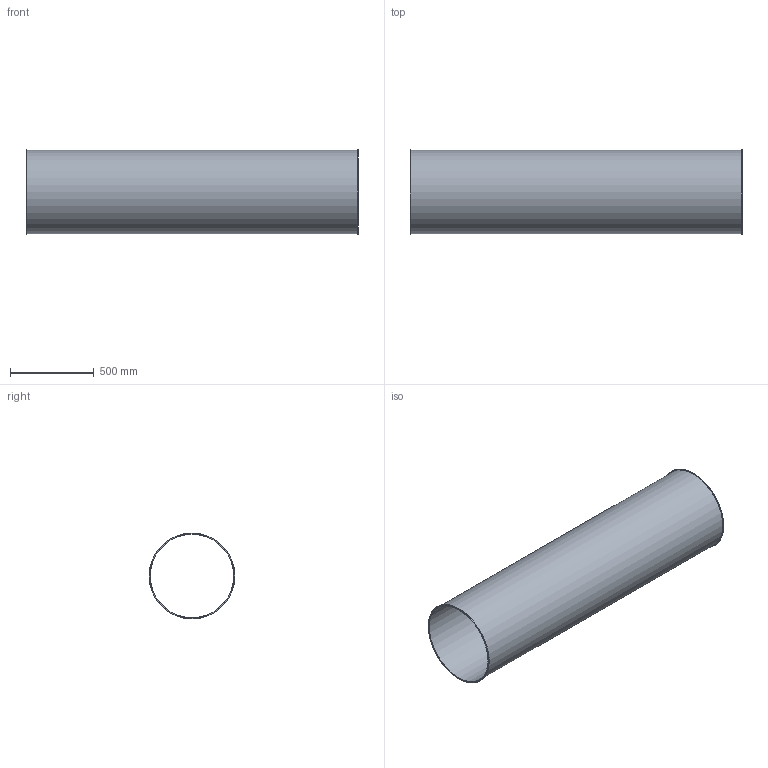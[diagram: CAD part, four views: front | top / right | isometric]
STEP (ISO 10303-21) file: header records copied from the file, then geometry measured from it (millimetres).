
FILE_DESCRIPTION((''),'2;1');
FILE_NAME('U:\Wolfgang\Marcel-3D\fertig\Kapitel 1\5021001.stp','2010-05-31T12:37:14',('TK2'),(''),'Autodesk Inventor 2010','Autodesk Inventor 2010','');
FILE_SCHEMA(('AUTOMOTIVE_DESIGN { 1 0 10303 214 1 1 1 1 }'));
Length unit declared in the file: millimetre
Products named in the file (1): 5021001
Bounding box: 1986 x 514 x 514 mm (x, y, z)
Volume: 6277505.3 mm3; surface area: 6283939.3 mm2
Topology: 1 solids, 1 shells, 8 faces, 12 edges, 8 vertices
Faces by surface type: cylinder 4, plane 4
Full cylindrical faces by diameter (mm): 498 x1, 502 x1, 514 x2
Entity records: 194 total; most frequent: DIRECTION 34, CARTESIAN_POINT 25, AXIS2_PLACEMENT_3D 17, ORIENTED_EDGE 16, EDGE_LOOP 16, VERTEX_POINT 8, CIRCLE 8, EDGE_CURVE 8
